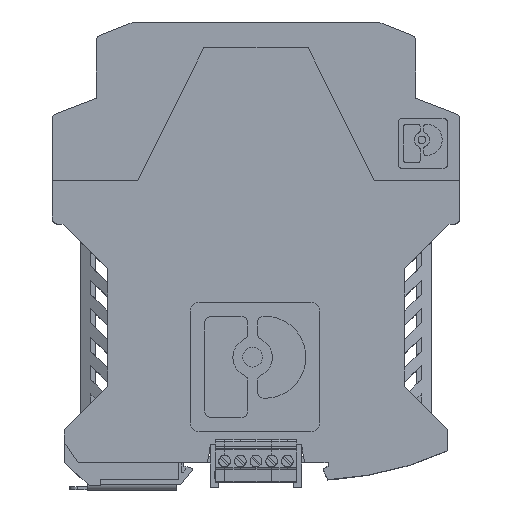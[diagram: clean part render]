
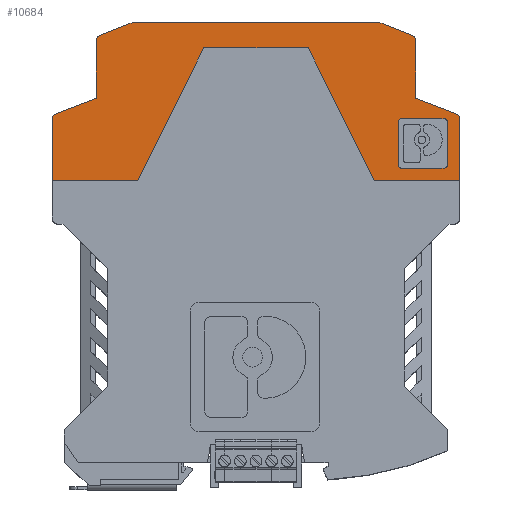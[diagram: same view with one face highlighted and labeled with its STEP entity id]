
A CAD part, top view. The second image highlights one B-rep face of the part: STEP entity #10684.
In plain terms, the highlighted planar face has unit normal (0, 0, 1).
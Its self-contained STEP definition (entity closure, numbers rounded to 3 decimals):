
#10684=ADVANCED_FACE('',(#35326,#35328),#35330,.T.);
#35326=FACE_BOUND('',#35327,.T.);
#35327=EDGE_LOOP('',(#63426,#63427,#63428,#63429,#63430,#63431,#63432,#63433,#63434,
#63435,#63436,#63437,#63438,#63439,#63440,#63441,#63442,#63443));
#35328=FACE_BOUND('',#35329,.T.);
#35329=EDGE_LOOP('',(#63444,#63445,#63446,#63447,#63448,#63449,#63450,#63451));
#35330=PLANE('',#35331);
#35331=AXIS2_PLACEMENT_3D('',#35332,#35333,#35334);
#35332=CARTESIAN_POINT('',(-29.217,96.455,26.4));
#35333=DIRECTION('',(0.,0.,1.));
#35334=DIRECTION('',(1.,0.,0.));
#63426=ORIENTED_EDGE('',*,*,#83695,.T.);
#63427=ORIENTED_EDGE('',*,*,#82649,.T.);
#63428=ORIENTED_EDGE('',*,*,#83618,.F.);
#63429=ORIENTED_EDGE('',*,*,#82777,.F.);
#63430=ORIENTED_EDGE('',*,*,#82664,.F.);
#63431=ORIENTED_EDGE('',*,*,#82575,.T.);
#63432=ORIENTED_EDGE('',*,*,#83696,.T.);
#63433=ORIENTED_EDGE('',*,*,#82927,.T.);
#63434=ORIENTED_EDGE('',*,*,#83697,.T.);
#63435=ORIENTED_EDGE('',*,*,#82910,.F.);
#63436=ORIENTED_EDGE('',*,*,#83698,.F.);
#63437=ORIENTED_EDGE('',*,*,#83476,.T.);
#63438=ORIENTED_EDGE('',*,*,#83699,.T.);
#63439=ORIENTED_EDGE('',*,*,#83091,.F.);
#63440=ORIENTED_EDGE('',*,*,#82833,.F.);
#63441=ORIENTED_EDGE('',*,*,#83485,.T.);
#63442=ORIENTED_EDGE('',*,*,#83649,.F.);
#63443=ORIENTED_EDGE('',*,*,#83700,.T.);
#63444=ORIENTED_EDGE('',*,*,#82698,.F.);
#63445=ORIENTED_EDGE('',*,*,#83607,.F.);
#63446=ORIENTED_EDGE('',*,*,#83612,.F.);
#63447=ORIENTED_EDGE('',*,*,#83701,.F.);
#63448=ORIENTED_EDGE('',*,*,#83313,.F.);
#63449=ORIENTED_EDGE('',*,*,#82708,.F.);
#63450=ORIENTED_EDGE('',*,*,#83702,.F.);
#63451=ORIENTED_EDGE('',*,*,#83288,.F.);
#82575=EDGE_CURVE('',#97512,#97510,#97513,.T.);
#82649=EDGE_CURVE('',#97658,#97655,#97659,.T.);
#82664=EDGE_CURVE('',#97512,#97686,#97687,.T.);
#82698=EDGE_CURVE('',#97749,#97745,#97751,.T.);
#82708=EDGE_CURVE('',#97769,#97765,#97771,.T.);
#82777=EDGE_CURVE('',#97686,#97902,#97903,.T.);
#82833=EDGE_CURVE('',#98006,#98008,#98009,.T.);
#82910=EDGE_CURVE('',#98152,#98155,#98156,.T.);
#82927=EDGE_CURVE('',#98185,#98186,#98187,.T.);
#83091=EDGE_CURVE('',#98008,#98472,#98473,.T.);
#83288=EDGE_CURVE('',#97745,#98796,#98800,.T.);
#83313=EDGE_CURVE('',#97765,#98841,#98844,.T.);
#83476=EDGE_CURVE('',#99088,#99086,#99089,.T.);
#83485=EDGE_CURVE('',#98006,#99101,#99103,.T.);
#83607=EDGE_CURVE('',#99284,#97749,#99286,.T.);
#83612=EDGE_CURVE('',#99292,#99284,#99294,.T.);
#83618=EDGE_CURVE('',#97902,#97655,#99301,.T.);
#83649=EDGE_CURVE('',#99350,#99101,#99351,.T.);
#83695=EDGE_CURVE('',#99413,#97658,#99414,.T.);
#83696=EDGE_CURVE('',#97510,#98185,#99415,.T.);
#83697=EDGE_CURVE('',#98186,#98155,#99416,.T.);
#83698=EDGE_CURVE('',#99088,#98152,#99417,.T.);
#83699=EDGE_CURVE('',#99086,#98472,#99418,.T.);
#83700=EDGE_CURVE('',#99350,#99413,#99419,.T.);
#83701=EDGE_CURVE('',#98841,#99292,#99420,.T.);
#83702=EDGE_CURVE('',#98796,#97769,#99421,.T.);
#97510=VERTEX_POINT('',#117723);
#97512=VERTEX_POINT('',#117727);
#97513=LINE('',#117728,#117729);
#97655=VERTEX_POINT('',#118025);
#97658=VERTEX_POINT('',#118030);
#97659=CIRCLE('',#118031,1.5);
#97686=VERTEX_POINT('',#118090);
#97687=LINE('',#118091,#118092);
#97745=VERTEX_POINT('',#118218);
#97749=VERTEX_POINT('',#118226);
#97751=LINE('',#118230,#118231);
#97765=VERTEX_POINT('',#118260);
#97769=VERTEX_POINT('',#118269);
#97771=CIRCLE('',#118273,0.843);
#97902=VERTEX_POINT('',#118551);
#97903=LINE('',#118552,#118553);
#98006=VERTEX_POINT('',#118770);
#98008=VERTEX_POINT('',#118774);
#98009=LINE('',#118775,#118776);
#98152=VERTEX_POINT('',#119072);
#98155=VERTEX_POINT('',#119077);
#98156=CIRCLE('',#119078,1.5);
#98185=VERTEX_POINT('',#119145);
#98186=VERTEX_POINT('',#119146);
#98187=LINE('',#119147,#119148);
#98472=VERTEX_POINT('',#119781);
#98473=LINE('',#119782,#119783);
#98796=VERTEX_POINT('',#120526);
#98800=CIRCLE('',#120535,0.843);
#98841=VERTEX_POINT('',#120627);
#98844=LINE('',#120634,#120635);
#99086=VERTEX_POINT('',#121221);
#99088=VERTEX_POINT('',#121225);
#99089=LINE('',#121226,#121227);
#99101=VERTEX_POINT('',#121256);
#99103=LINE('',#121260,#121261);
#99284=VERTEX_POINT('',#121705);
#99286=CIRCLE('',#121709,0.843);
#99292=VERTEX_POINT('',#121724);
#99294=LINE('',#121728,#121729);
#99301=LINE('',#121747,#121748);
#99350=VERTEX_POINT('',#121863);
#99351=CIRCLE('',#121864,1.5);
#99413=VERTEX_POINT('',#122025);
#99414=LINE('',#122026,#122027);
#99415=LINE('',#122029,#122030);
#99416=LINE('',#122032,#122033);
#99417=LINE('',#122035,#122036);
#99418=CIRCLE('',#122038,1.5);
#99419=LINE('',#122042,#122043);
#99420=CIRCLE('',#122045,0.843);
#99421=LINE('',#122049,#122050);
#117723=CARTESIAN_POINT('',(12.7,108.7,26.4));
#117727=CARTESIAN_POINT('',(-12.7,108.7,26.4));
#117728=CARTESIAN_POINT('',(-12.7,108.7,26.4));
#117729=VECTOR('',#117730,1.);
#117730=DIRECTION('',(1.,0.,0.));
#118025=CARTESIAN_POINT('',(-49.5,91.368,26.4));
#118030=CARTESIAN_POINT('',(-48.537,92.769,26.4));
#118031=AXIS2_PLACEMENT_3D('',#118032,#118033,#118034);
#118032=CARTESIAN_POINT('',(-48.,91.368,26.4));
#118033=DIRECTION('',(0.,-0.,1.));
#118034=DIRECTION('',(-0.358,0.934,0.));
#118090=CARTESIAN_POINT('',(-28.75,76.5,26.4));
#118091=CARTESIAN_POINT('',(-12.7,108.7,26.4));
#118092=VECTOR('',#118093,1.);
#118093=DIRECTION('',(-0.446,-0.895,0.));
#118218=CARTESIAN_POINT('',(46.5,90.657,26.4));
#118226=CARTESIAN_POINT('',(46.5,80.343,26.4));
#118230=CARTESIAN_POINT('',(46.5,80.343,26.4));
#118231=VECTOR('',#118232,1.);
#118232=DIRECTION('',(0.,1.,0.));
#118260=CARTESIAN_POINT('',(34.5,90.657,26.4));
#118269=CARTESIAN_POINT('',(35.343,91.5,26.4));
#118273=AXIS2_PLACEMENT_3D('',#118274,#118275,#118276);
#118274=CARTESIAN_POINT('',(35.343,90.657,26.4));
#118275=DIRECTION('',(0.,-0.,1.));
#118276=DIRECTION('',(0.,1.,0.));
#118551=CARTESIAN_POINT('',(-49.5,76.5,26.4));
#118552=CARTESIAN_POINT('',(-28.75,76.5,26.4));
#118553=VECTOR('',#118554,1.);
#118554=DIRECTION('',(-1.,0.,0.));
#118770=CARTESIAN_POINT('',(-29.6,115.,26.4));
#118774=CARTESIAN_POINT('',(29.6,115.,26.4));
#118775=CARTESIAN_POINT('',(-29.6,115.,26.4));
#118776=VECTOR('',#118777,1.);
#118777=DIRECTION('',(1.,0.,0.));
#119072=CARTESIAN_POINT('',(48.537,92.769,26.4));
#119077=CARTESIAN_POINT('',(49.5,91.368,26.4));
#119078=AXIS2_PLACEMENT_3D('',#119079,#119080,#119081);
#119079=CARTESIAN_POINT('',(48.,91.368,26.4));
#119080=DIRECTION('',(0.,0.,-1.));
#119081=DIRECTION('',(0.358,0.934,0.));
#119145=CARTESIAN_POINT('',(28.75,76.5,26.4));
#119146=CARTESIAN_POINT('',(49.5,76.5,26.4));
#119147=CARTESIAN_POINT('',(28.75,76.5,26.4));
#119148=VECTOR('',#119149,1.);
#119149=DIRECTION('',(1.,0.,0.));
#119781=CARTESIAN_POINT('',(37.838,111.838,26.4));
#119782=CARTESIAN_POINT('',(29.6,115.,26.4));
#119783=VECTOR('',#119784,1.);
#119784=DIRECTION('',(0.934,-0.358,0.));
#120526=CARTESIAN_POINT('',(45.657,91.5,26.4));
#120535=AXIS2_PLACEMENT_3D('',#120536,#120537,#120538);
#120536=CARTESIAN_POINT('',(45.657,90.657,26.4));
#120537=DIRECTION('',(-0.,0.,1.));
#120538=DIRECTION('',(1.,0.,0.));
#120627=CARTESIAN_POINT('',(34.5,80.343,26.4));
#120634=CARTESIAN_POINT('',(34.5,90.657,26.4));
#120635=VECTOR('',#120636,1.);
#120636=DIRECTION('',(0.,-1.,0.));
#121221=CARTESIAN_POINT('',(38.8,110.438,26.4));
#121225=CARTESIAN_POINT('',(38.8,96.5,26.4));
#121226=CARTESIAN_POINT('',(38.8,96.5,26.4));
#121227=VECTOR('',#121228,1.);
#121228=DIRECTION('',(0.,1.,0.));
#121256=CARTESIAN_POINT('',(-37.838,111.838,26.4));
#121260=CARTESIAN_POINT('',(-29.6,115.,26.4));
#121261=VECTOR('',#121262,1.);
#121262=DIRECTION('',(-0.934,-0.358,0.));
#121705=CARTESIAN_POINT('',(45.657,79.5,26.4));
#121709=AXIS2_PLACEMENT_3D('',#121710,#121711,#121712);
#121710=CARTESIAN_POINT('',(45.657,80.343,26.4));
#121711=DIRECTION('',(-0.,0.,1.));
#121712=DIRECTION('',(0.,-1.,0.));
#121724=CARTESIAN_POINT('',(35.343,79.5,26.4));
#121728=CARTESIAN_POINT('',(35.343,79.5,26.4));
#121729=VECTOR('',#121730,1.);
#121730=DIRECTION('',(1.,0.,0.));
#121747=CARTESIAN_POINT('',(-49.5,76.5,26.4));
#121748=VECTOR('',#121749,1.);
#121749=DIRECTION('',(0.,1.,0.));
#121863=CARTESIAN_POINT('',(-38.8,110.438,26.4));
#121864=AXIS2_PLACEMENT_3D('',#121865,#121866,#121867);
#121865=CARTESIAN_POINT('',(-37.3,110.438,26.4));
#121866=DIRECTION('',(0.,0.,-1.));
#121867=DIRECTION('',(-1.,0.,0.));
#122025=CARTESIAN_POINT('',(-38.8,96.5,26.4));
#122026=CARTESIAN_POINT('',(-38.8,96.5,26.4));
#122027=VECTOR('',#122028,1.);
#122028=DIRECTION('',(-0.934,-0.358,0.));
#122029=CARTESIAN_POINT('',(12.7,108.7,26.4));
#122030=VECTOR('',#122031,1.);
#122031=DIRECTION('',(0.446,-0.895,0.));
#122032=CARTESIAN_POINT('',(49.5,76.5,26.4));
#122033=VECTOR('',#122034,1.);
#122034=DIRECTION('',(0.,1.,0.));
#122035=CARTESIAN_POINT('',(38.8,96.5,26.4));
#122036=VECTOR('',#122037,1.);
#122037=DIRECTION('',(0.934,-0.358,0.));
#122038=AXIS2_PLACEMENT_3D('',#122039,#122040,#122041);
#122039=CARTESIAN_POINT('',(37.3,110.438,26.4));
#122040=DIRECTION('',(0.,0.,1.));
#122041=DIRECTION('',(1.,0.,0.));
#122042=CARTESIAN_POINT('',(-38.8,110.438,26.4));
#122043=VECTOR('',#122044,1.);
#122044=DIRECTION('',(0.,-1.,0.));
#122045=AXIS2_PLACEMENT_3D('',#122046,#122047,#122048);
#122046=CARTESIAN_POINT('',(35.343,80.343,26.4));
#122047=DIRECTION('',(0.,-0.,1.));
#122048=DIRECTION('',(-1.,0.,0.));
#122049=CARTESIAN_POINT('',(45.657,91.5,26.4));
#122050=VECTOR('',#122051,1.);
#122051=DIRECTION('',(-1.,0.,0.));
